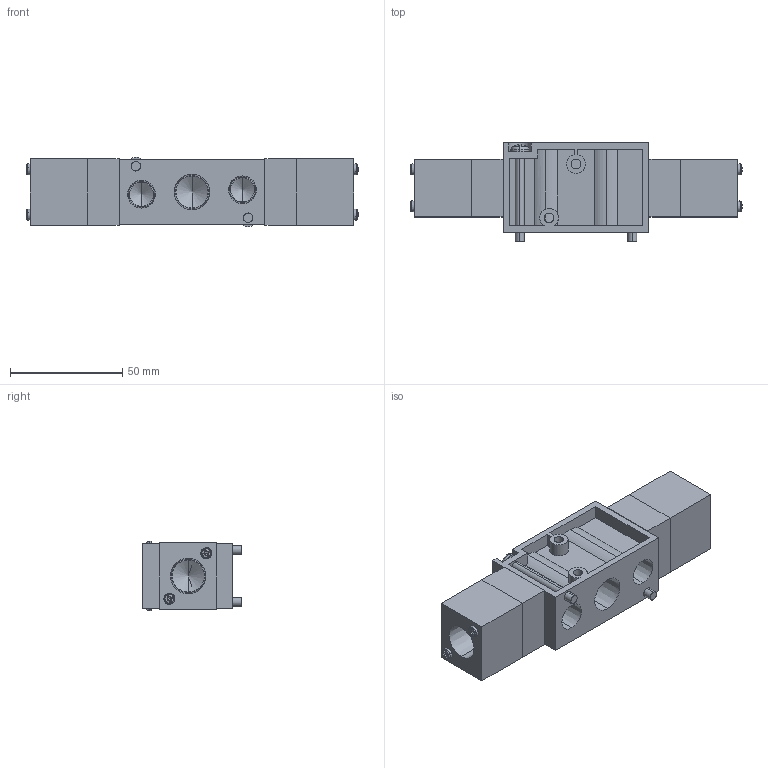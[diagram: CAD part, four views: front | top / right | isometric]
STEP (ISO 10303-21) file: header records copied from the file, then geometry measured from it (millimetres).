
FILE_DESCRIPTION (( 'STEP AP203' ), '1' );
FILE_NAME ('YCD(E)(O)3408-03.STEP', '2016-08-08T01:46:45', ( '' ), ( '' ), 'SwSTEP 2.0', 'SolidWorks 2014', '' );
FILE_SCHEMA (( 'CONFIG_CONTROL_DESIGN' ));
Length unit declared in the file: millimetre
Products named in the file (7): YCD(E)(O)3408-03; YCS-2408-03; RC08-MARK_3; ISO 7045 - M4 x 40_3; YCD08-03TURN; PC6-M3_50; RC08-1_3
Assembly tree (12 placements, depth 2):
  YCD(E)(O)3408-03
    RC08-1_3
    RC08-MARK_3
    ISO 7045 - M4 x 40_3  x2
    YCD08-03TURN  x2
    PC6-M3_50  x4
    YCS-2408-03  x2
Bounding box: 147.89 x 44.12 x 31 mm (x, y, z)
Volume: 103939 mm3; surface area: 35867.9 mm2
Topology: 18 solids, 18 shells, 424 faces, 1048 edges, 657 vertices
Faces by surface type: plane 232, cylinder 76, cone 72, bspline 44
Entity records: 9207 total; most frequent: CARTESIAN_POINT 1996, ORIENTED_EDGE 1312, DIRECTION 1292, EDGE_CURVE 656, AXIS2_PLACEMENT_3D 452, VERTEX_POINT 428, VECTOR 388, LINE 388
